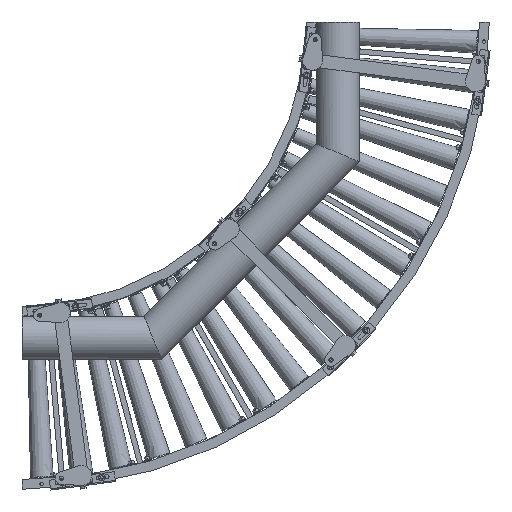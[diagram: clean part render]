
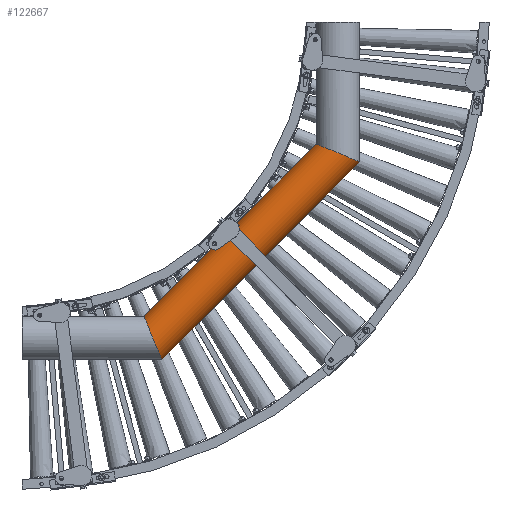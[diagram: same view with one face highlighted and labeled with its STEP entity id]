
A CAD part, front view. The second image highlights one B-rep face of the part: STEP entity #122667.
In plain terms, the highlighted cylindrical face has radius 67.024 mm (diameter 134.048 mm), a partial arc.
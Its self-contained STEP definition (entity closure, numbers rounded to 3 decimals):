
#16303 = CARTESIAN_POINT ( 'NONE',  ( 939.538, -166.5, -334.254 ) ) ;
#17432 = CARTESIAN_POINT ( 'NONE',  ( 373.092, -166.5, -900.7 ) ) ;
#18022 = CARTESIAN_POINT ( 'NONE',  ( 428.017, -166.5, -1033.3 ) ) ;
#29352 = CARTESIAN_POINT ( 'NONE',  ( 421.791, -267.933, -1018.27 ) ) ;
#29378 = ORIENTED_EDGE ( 'NONE', *, *, #57108, .T. ) ;
#31110 = VERTEX_POINT ( 'NONE', #94816 ) ;
#37903 = CARTESIAN_POINT ( 'NONE',  ( 1033.3, -166.5, -428.017 ) ) ;
#45230 = EDGE_CURVE ( 'NONE', #128660, #152482, #133764, .T. ) ;
#56179 = DIRECTION ( 'NONE',  ( -0.707, 0., -0.707 ) ) ;
#57108 = EDGE_CURVE ( 'NONE', #152482, #82013, #82754, .T. ) ;
#70840 = AXIS2_PLACEMENT_3D ( 'NONE', #163635, #136721, #164223 ) ;
#71689 = CARTESIAN_POINT ( 'NONE',  ( 379.317, -267.933, -915.73 ) ) ;
#73530 = CARTESIAN_POINT ( 'NONE',  ( 1033.3, -166.5, -428.017 ) ) ;
#74093 = DIRECTION ( 'NONE',  ( -0.707, 0., -0.707 ) ) ;
#77143 = CARTESIAN_POINT ( 'NONE',  ( 900.7, -166.5, -373.092 ) ) ;
#78757 = CARTESIAN_POINT ( 'NONE',  ( 373.092, -166.5, -900.7 ) ) ;
#82013 = VERTEX_POINT ( 'NONE', #78757 ) ;
#82754 = LINE ( 'NONE', #16303, #146850 ) ;
#94816 = CARTESIAN_POINT ( 'NONE',  ( 428.017, -166.5, -1033.3 ) ) ;
#95028 = CARTESIAN_POINT ( 'NONE',  ( 900.7, -166.5, -373.092 ) ) ;
#95604 = CARTESIAN_POINT ( 'NONE',  ( 1018.27, -267.933, -421.791 ) ) ;
#98268 = EDGE_LOOP ( 'NONE', ( #173589, #115233, #29378, #148206 ) ) ;
#100449 =( BOUNDED_CURVE ( )  B_SPLINE_CURVE ( 3, ( #18022, #29352, #71689, #17432 ),
 .UNSPECIFIED., .F., .F. ) 
 B_SPLINE_CURVE_WITH_KNOTS ( ( 4, 4 ),
 ( 0.147, 2.994 ),
 .UNSPECIFIED. ) 
 CURVE ( )  GEOMETRIC_REPRESENTATION_ITEM ( )  RATIONAL_B_SPLINE_CURVE ( ( 1., 0.431, 0.431, 1. ) ) 
 REPRESENTATION_ITEM ( '' )  );
#110976 = LINE ( 'NONE', #73530, #149412 ) ;
#115233 = ORIENTED_EDGE ( 'NONE', *, *, #45230, .T. ) ;
#119921 = EDGE_CURVE ( 'NONE', #128660, #31110, #110976, .T. ) ;
#122667 = ADVANCED_FACE ( 'NONE', ( #146741 ), #142438, .T. ) ;
#128660 = VERTEX_POINT ( 'NONE', #37903 ) ;
#133764 =( BOUNDED_CURVE ( )  B_SPLINE_CURVE ( 3, ( #163063, #95604, #176719, #95028 ),
 .UNSPECIFIED., .F., .F. ) 
 B_SPLINE_CURVE_WITH_KNOTS ( ( 4, 4 ),
 ( 0.147, 2.994 ),
 .UNSPECIFIED. ) 
 CURVE ( )  GEOMETRIC_REPRESENTATION_ITEM ( )  RATIONAL_B_SPLINE_CURVE ( ( 1., 0.431, 0.431, 1. ) ) 
 REPRESENTATION_ITEM ( '' )  );
#136721 = DIRECTION ( 'NONE',  ( -0.707, 0., -0.707 ) ) ;
#142438 = CYLINDRICAL_SURFACE ( 'NONE', #70840, 67.024 ) ;
#146741 = FACE_OUTER_BOUND ( 'NONE', #98268, .T. ) ;
#146850 = VECTOR ( 'NONE', #56179, 1000. ) ;
#148206 = ORIENTED_EDGE ( 'NONE', *, *, #162488, .F. ) ;
#149412 = VECTOR ( 'NONE', #74093, 1000. ) ;
#152482 = VERTEX_POINT ( 'NONE', #77143 ) ;
#162488 = EDGE_CURVE ( 'NONE', #31110, #82013, #100449, .T. ) ;
#163063 = CARTESIAN_POINT ( 'NONE',  ( 1033.3, -166.5, -428.017 ) ) ;
#163635 = CARTESIAN_POINT ( 'NONE',  ( 986.419, -156.676, -381.135 ) ) ;
#164223 = DIRECTION ( 'NONE',  ( -0.707, 0., 0.707 ) ) ;
#173589 = ORIENTED_EDGE ( 'NONE', *, *, #119921, .F. ) ;
#176719 = CARTESIAN_POINT ( 'NONE',  ( 915.73, -267.933, -379.317 ) ) ;
